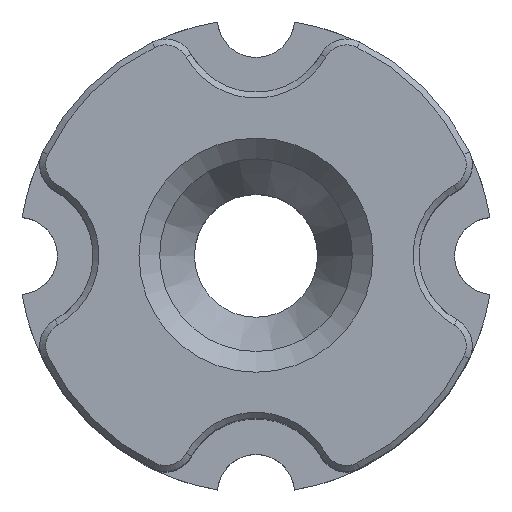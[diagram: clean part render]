
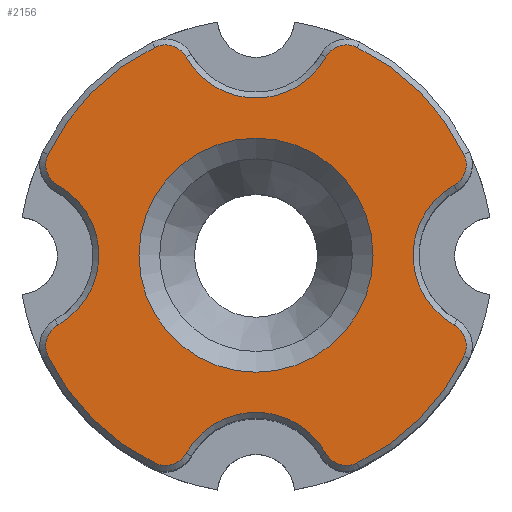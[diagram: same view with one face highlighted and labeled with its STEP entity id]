
A CAD part, top view. The second image highlights one B-rep face of the part: STEP entity #2156.
In plain terms, the highlighted planar face has unit normal (0, 0, 1).
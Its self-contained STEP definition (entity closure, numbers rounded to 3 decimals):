
#30=PLANE('',#2348);
#188=CIRCLE('',#2349,2.7);
#189=CIRCLE('',#2350,0.8);
#190=CIRCLE('',#2351,7.8);
#191=CIRCLE('',#2352,0.8);
#192=CIRCLE('',#2353,2.7);
#193=CIRCLE('',#2354,0.8);
#194=CIRCLE('',#2355,7.8);
#195=CIRCLE('',#2356,0.8);
#196=CIRCLE('',#2357,2.7);
#197=CIRCLE('',#2358,0.8);
#198=CIRCLE('',#2359,7.8);
#199=CIRCLE('',#2360,0.8);
#200=CIRCLE('',#2361,2.7);
#201=CIRCLE('',#2362,0.8);
#202=CIRCLE('',#2363,7.8);
#203=CIRCLE('',#2364,0.8);
#204=CIRCLE('',#2365,3.95);
#460=ORIENTED_EDGE('',*,*,#852,.T.);
#461=ORIENTED_EDGE('',*,*,#853,.T.);
#462=ORIENTED_EDGE('',*,*,#854,.T.);
#463=ORIENTED_EDGE('',*,*,#855,.T.);
#464=ORIENTED_EDGE('',*,*,#856,.T.);
#465=ORIENTED_EDGE('',*,*,#857,.T.);
#466=ORIENTED_EDGE('',*,*,#858,.T.);
#467=ORIENTED_EDGE('',*,*,#859,.T.);
#468=ORIENTED_EDGE('',*,*,#860,.T.);
#469=ORIENTED_EDGE('',*,*,#861,.T.);
#470=ORIENTED_EDGE('',*,*,#862,.T.);
#471=ORIENTED_EDGE('',*,*,#863,.T.);
#472=ORIENTED_EDGE('',*,*,#864,.T.);
#473=ORIENTED_EDGE('',*,*,#865,.T.);
#474=ORIENTED_EDGE('',*,*,#866,.T.);
#475=ORIENTED_EDGE('',*,*,#867,.T.);
#476=ORIENTED_EDGE('',*,*,#868,.T.);
#852=EDGE_CURVE('',#1038,#1039,#188,.F.);
#853=EDGE_CURVE('',#1039,#1040,#189,.T.);
#854=EDGE_CURVE('',#1040,#1041,#190,.T.);
#855=EDGE_CURVE('',#1041,#1042,#191,.T.);
#856=EDGE_CURVE('',#1042,#1043,#192,.F.);
#857=EDGE_CURVE('',#1043,#1044,#193,.T.);
#858=EDGE_CURVE('',#1044,#1045,#194,.T.);
#859=EDGE_CURVE('',#1045,#1046,#195,.T.);
#860=EDGE_CURVE('',#1046,#1047,#196,.F.);
#861=EDGE_CURVE('',#1047,#1048,#197,.T.);
#862=EDGE_CURVE('',#1048,#1049,#198,.T.);
#863=EDGE_CURVE('',#1049,#1050,#199,.T.);
#864=EDGE_CURVE('',#1050,#1051,#200,.F.);
#865=EDGE_CURVE('',#1051,#1052,#201,.T.);
#866=EDGE_CURVE('',#1052,#1053,#202,.T.);
#867=EDGE_CURVE('',#1053,#1038,#203,.T.);
#868=EDGE_CURVE('',#1054,#1054,#204,.F.);
#1038=VERTEX_POINT('',#3376);
#1039=VERTEX_POINT('',#3377);
#1040=VERTEX_POINT('',#3379);
#1041=VERTEX_POINT('',#3381);
#1042=VERTEX_POINT('',#3383);
#1043=VERTEX_POINT('',#3385);
#1044=VERTEX_POINT('',#3387);
#1045=VERTEX_POINT('',#3389);
#1046=VERTEX_POINT('',#3391);
#1047=VERTEX_POINT('',#3393);
#1048=VERTEX_POINT('',#3395);
#1049=VERTEX_POINT('',#3397);
#1050=VERTEX_POINT('',#3399);
#1051=VERTEX_POINT('',#3401);
#1052=VERTEX_POINT('',#3403);
#1053=VERTEX_POINT('',#3405);
#1054=VERTEX_POINT('',#3408);
#1243=EDGE_LOOP('',(#460,#461,#462,#463,#464,#465,#466,#467,#468,#469,#470,
#471,#472,#473,#474,#475));
#1244=EDGE_LOOP('',(#476));
#1353=FACE_BOUND('',#1243,.T.);
#1354=FACE_BOUND('',#1244,.T.);
#2156=ADVANCED_FACE('',(#1353,#1354),#30,.T.);
#2348=AXIS2_PLACEMENT_3D('',#3374,#2763,#2764);
#2349=AXIS2_PLACEMENT_3D('',#3375,#2765,#2766);
#2350=AXIS2_PLACEMENT_3D('',#3378,#2767,#2768);
#2351=AXIS2_PLACEMENT_3D('',#3380,#2769,#2770);
#2352=AXIS2_PLACEMENT_3D('',#3382,#2771,#2772);
#2353=AXIS2_PLACEMENT_3D('',#3384,#2773,#2774);
#2354=AXIS2_PLACEMENT_3D('',#3386,#2775,#2776);
#2355=AXIS2_PLACEMENT_3D('',#3388,#2777,#2778);
#2356=AXIS2_PLACEMENT_3D('',#3390,#2779,#2780);
#2357=AXIS2_PLACEMENT_3D('',#3392,#2781,#2782);
#2358=AXIS2_PLACEMENT_3D('',#3394,#2783,#2784);
#2359=AXIS2_PLACEMENT_3D('',#3396,#2785,#2786);
#2360=AXIS2_PLACEMENT_3D('',#3398,#2787,#2788);
#2361=AXIS2_PLACEMENT_3D('',#3400,#2789,#2790);
#2362=AXIS2_PLACEMENT_3D('',#3402,#2791,#2792);
#2363=AXIS2_PLACEMENT_3D('',#3404,#2793,#2794);
#2364=AXIS2_PLACEMENT_3D('',#3406,#2795,#2796);
#2365=AXIS2_PLACEMENT_3D('',#3407,#2797,#2798);
#2763=DIRECTION('',(0.,0.,1.));
#2764=DIRECTION('',(1.,0.,0.));
#2765=DIRECTION('',(0.,0.,1.));
#2766=DIRECTION('',(1.,0.,0.));
#2767=DIRECTION('',(0.,0.,1.));
#2768=DIRECTION('',(1.,0.,0.));
#2769=DIRECTION('',(0.,0.,1.));
#2770=DIRECTION('',(1.,0.,0.));
#2771=DIRECTION('',(0.,0.,1.));
#2772=DIRECTION('',(1.,0.,0.));
#2773=DIRECTION('',(0.,0.,1.));
#2774=DIRECTION('',(1.,0.,0.));
#2775=DIRECTION('',(0.,0.,1.));
#2776=DIRECTION('',(1.,0.,0.));
#2777=DIRECTION('',(0.,0.,1.));
#2778=DIRECTION('',(1.,0.,0.));
#2779=DIRECTION('',(0.,0.,1.));
#2780=DIRECTION('',(1.,0.,0.));
#2781=DIRECTION('',(0.,0.,1.));
#2782=DIRECTION('',(1.,0.,0.));
#2783=DIRECTION('',(0.,0.,1.));
#2784=DIRECTION('',(1.,0.,0.));
#2785=DIRECTION('',(0.,0.,1.));
#2786=DIRECTION('',(1.,0.,0.));
#2787=DIRECTION('',(0.,0.,1.));
#2788=DIRECTION('',(1.,0.,0.));
#2789=DIRECTION('',(0.,0.,1.));
#2790=DIRECTION('',(1.,0.,0.));
#2791=DIRECTION('',(0.,0.,1.));
#2792=DIRECTION('',(1.,0.,0.));
#2793=DIRECTION('',(0.,0.,1.));
#2794=DIRECTION('',(1.,0.,0.));
#2795=DIRECTION('',(0.,0.,1.));
#2796=DIRECTION('',(1.,0.,0.));
#2797=DIRECTION('',(0.,0.,1.));
#2798=DIRECTION('',(1.,0.,0.));
#3374=CARTESIAN_POINT('',(-8.,0.,19.7));
#3375=CARTESIAN_POINT('',(0.,-8.,19.7));
#3376=CARTESIAN_POINT('',(-2.359,-6.686,19.7));
#3377=CARTESIAN_POINT('',(2.359,-6.686,19.7));
#3378=CARTESIAN_POINT('',(3.058,-6.297,19.7));
#3379=CARTESIAN_POINT('',(3.407,-7.017,19.7));
#3380=CARTESIAN_POINT('',(0.,0.,19.7));
#3381=CARTESIAN_POINT('',(7.017,-3.407,19.7));
#3382=CARTESIAN_POINT('',(6.297,-3.058,19.7));
#3383=CARTESIAN_POINT('',(6.686,-2.359,19.7));
#3384=CARTESIAN_POINT('',(8.,0.,19.7));
#3385=CARTESIAN_POINT('',(6.686,2.359,19.7));
#3386=CARTESIAN_POINT('',(6.297,3.058,19.7));
#3387=CARTESIAN_POINT('',(7.017,3.407,19.7));
#3388=CARTESIAN_POINT('',(0.,0.,19.7));
#3389=CARTESIAN_POINT('',(3.407,7.017,19.7));
#3390=CARTESIAN_POINT('',(3.058,6.297,19.7));
#3391=CARTESIAN_POINT('',(2.359,6.686,19.7));
#3392=CARTESIAN_POINT('',(0.,8.,19.7));
#3393=CARTESIAN_POINT('',(-2.359,6.686,19.7));
#3394=CARTESIAN_POINT('',(-3.058,6.297,19.7));
#3395=CARTESIAN_POINT('',(-3.407,7.017,19.7));
#3396=CARTESIAN_POINT('',(0.,0.,19.7));
#3397=CARTESIAN_POINT('',(-7.017,3.407,19.7));
#3398=CARTESIAN_POINT('',(-6.297,3.058,19.7));
#3399=CARTESIAN_POINT('',(-6.686,2.359,19.7));
#3400=CARTESIAN_POINT('',(-8.,0.,19.7));
#3401=CARTESIAN_POINT('',(-6.686,-2.359,19.7));
#3402=CARTESIAN_POINT('',(-6.297,-3.058,19.7));
#3403=CARTESIAN_POINT('',(-7.017,-3.407,19.7));
#3404=CARTESIAN_POINT('',(0.,0.,19.7));
#3405=CARTESIAN_POINT('',(-3.407,-7.017,19.7));
#3406=CARTESIAN_POINT('',(-3.058,-6.297,19.7));
#3407=CARTESIAN_POINT('',(0.,0.,19.7));
#3408=CARTESIAN_POINT('',(3.95,0.,19.7));
